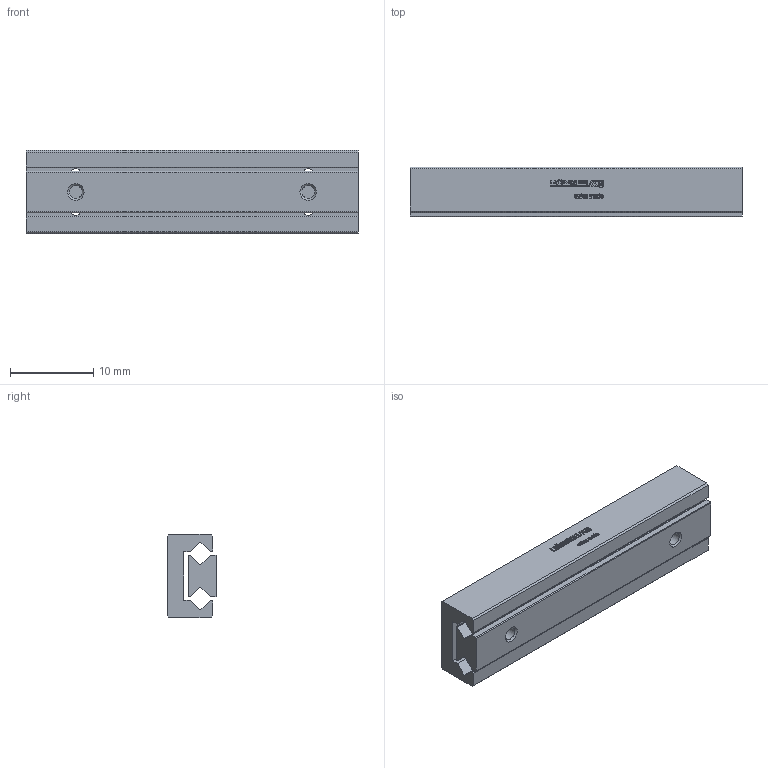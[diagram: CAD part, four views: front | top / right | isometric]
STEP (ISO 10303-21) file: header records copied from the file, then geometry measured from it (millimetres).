
FILE_DESCRIPTION(/* description */ ('STEP AP214'),/* implementation_level */ '2;1');
FILE_NAME(/* name */ 'MSR 5-40.35(0)',/* time_stamp */ '2025-04-16T17:18:30+02:00',/* author */ ('License CC BY-ND 4.0'),/* organization */ ('CADENAS'),/* preprocessor_version */ 'ST-DEVELOPER v19.3',/* originating_system */ 'PARTsolutions',/* authorisation */ ' ');
FILE_SCHEMA (('AUTOMOTIVE_DESIGN {1 0 10303 214 3 1 1}'));
Length unit declared in the file: millimetre
Products named in the file (3): MSR 5-40.35(0); MSR 5-40.35_1; MSR 5-40.35_2
Assembly tree (2 placements, depth 2):
  MSR 5-40.35(0)
    MSR 5-40.35_1
    MSR 5-40.35_2
Bounding box: 40 x 6 x 10 mm (x, y, z)
Volume: 1799.6 mm3; surface area: 2464.7 mm2
Topology: 2 solids, 2 shells, 521 faces, 1466 edges, 976 vertices
Faces by surface type: cylinder 302, plane 211, cone 8
Full cylindrical faces by diameter (mm): 1.567 x6
Entity records: 17053 total; most frequent: DIRECTION 3108, CARTESIAN_POINT 2944, ORIENTED_EDGE 2896, EDGE_CURVE 1448, AXIS2_PLACEMENT_3D 1136, VERTEX_POINT 972, LINE 836, VECTOR 836
